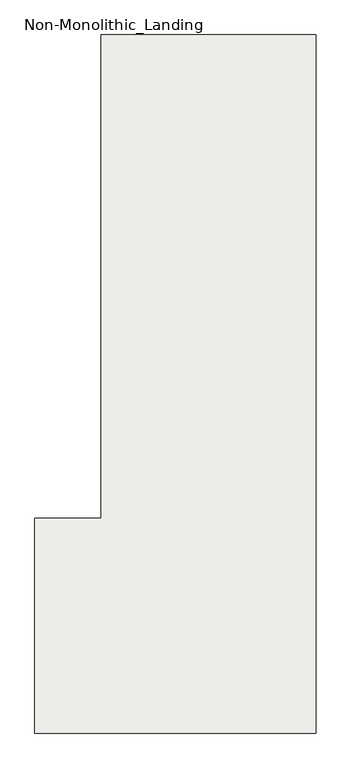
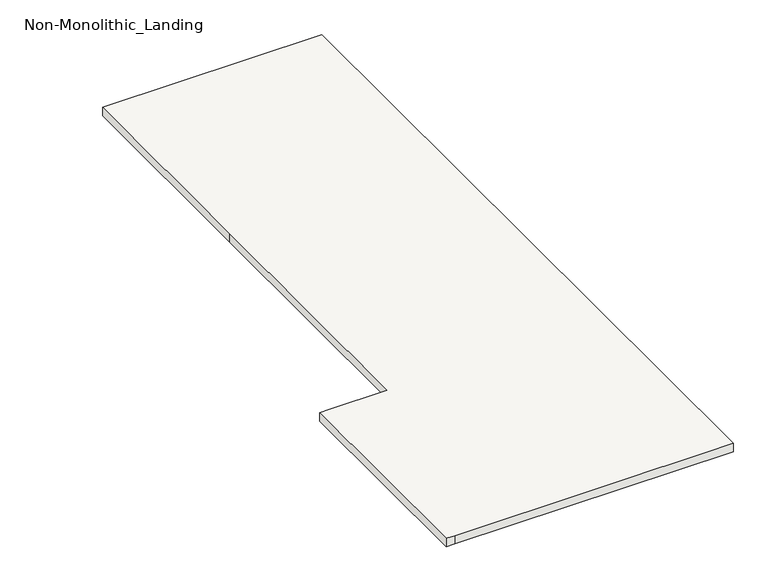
"""IFC4 building model written with IfcOpenShell, lengths in millimetres: slab geometry, Non-Monolithic_Landing."""

from ifc_helpers import new_model, si_unit, frame, origin, place, context, project, spatial, polyline, outline, extrude, source, transform, mapped, element, save


def non_monolithic_landing_75a102ce(model_context):
    return source(origin(), model_context, "Body", "SweptSolid", [
        extrude(outline(polyline([(38365.7942367, 1.8025492), (39365.7942367, 1.8025492), (39365.7942367, -3247.3476462), (38096.3596932, -3247.3476462), (38056.3596932, -3247.3476462), (38056.3596932, -2247.3476462), (38096.3596932, -2247.3476462), (38365.7942367, -2247.3476462), (38365.7942367, -998.1974508), (38365.7942367, 1.8025492)])), frame((0.0, 0.0, 1924.2857143), z_axis=(0.0, 0.0, 1.0), x_axis=(1.0, 0.0, 0.0)), (0.0, 0.0, 1.0), 40.0),
    ])


if __name__ == "__main__":
    model = new_model("IFC4")
    model_context = context("Model", 3, world=origin())
    ifc_project = project(units=[si_unit("LENGTHUNIT", "METRE", prefix="MILLI")], contexts=[model_context])
    site = spatial("IfcSite", under=ifc_project)
    building = spatial("IfcBuilding", under=site)
    placement = place(None, origin())
    non_monolithic_landing_shape = non_monolithic_landing_75a102ce(model_context)
    element("IfcSlab", 1, ObjectType="Non-Monolithic_Landing", at=placement, inside=building, context=model_context, shape_type="MappedRepresentation", body=[
        mapped(non_monolithic_landing_shape, transform((0.0, 0.0, 0.0), x_axis=(1.0, 0.0, 0.0), y_axis=(0.0, 1.0, 0.0), z_axis=(0.0, 0.0, 1.0))),
    ])
    save(model, "model.ifc")
